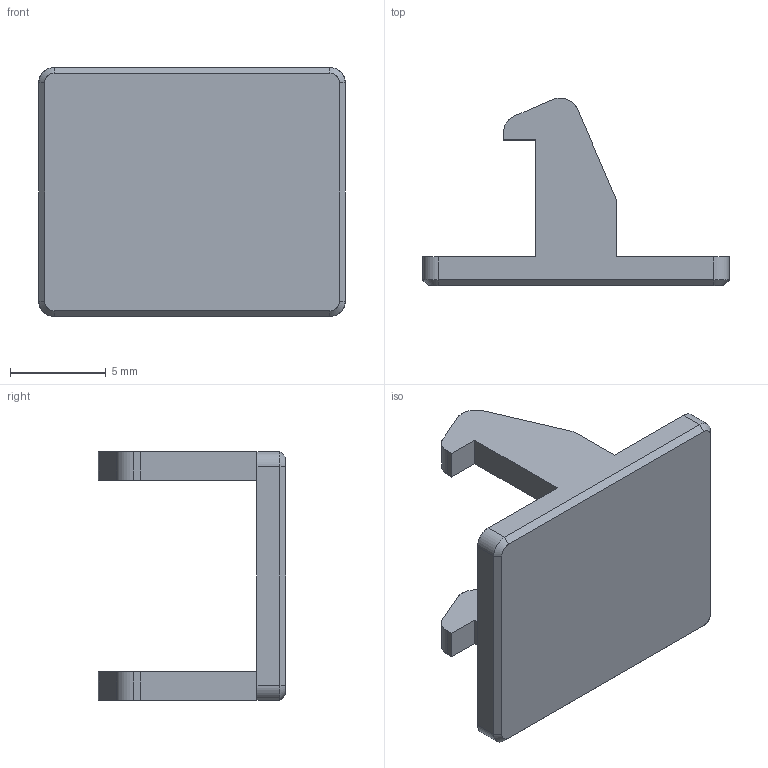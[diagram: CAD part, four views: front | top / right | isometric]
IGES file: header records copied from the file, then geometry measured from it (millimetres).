
Start section: SolidWorks IGES FILE using analytic representation for surfaces
Global section: file name: C:\Documents and Settings\lecoutey\Bureau\GR 62\62.071.00.IGS; native system: SolidWorks 2004 by SolidWorks Corporation; preprocessor: Version 5.3; author: lecoutey; date: 050330.160952; units: millimetre
Bounding box: 16 x 9.79 x 13 mm (x, y, z)
Surface area: 663.5 mm2 (no closed solid volume)
Topology: 0 solids, 0 shells, 38 faces, 264 edges, 264 vertices
Faces by surface type: bspline 24, revolution 14
